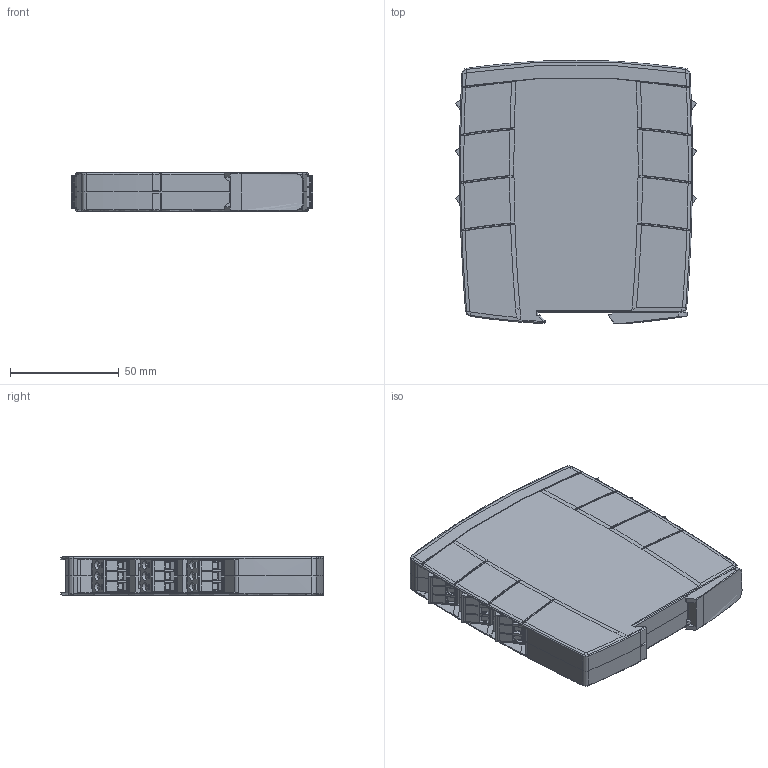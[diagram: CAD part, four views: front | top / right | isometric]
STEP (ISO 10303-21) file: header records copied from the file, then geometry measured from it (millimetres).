
FILE_DESCRIPTION(/* description */ (''),/* implementation_level */ '2;1');
FILE_NAME(/* name */ 'V:\AUTOCAD\_tegninger\Stepfiles - 3D\SafetyModules\SM-Modules\Assembly\TV\SM-6-TerminalsScrews.stp',/* time_stamp */ '2019-10-01T13:29:21+02:00',/* author */ ('tvb'),/* organization */ (''),/* preprocessor_version */ 'ST-DEVELOPER v18',/* originating_system */ 'Autodesk Inventor 2020',/* authorisation */ '');
FILE_SCHEMA (('AUTOMOTIVE_DESIGN { 1 0 10303 214 3 1 1 }'));
Products named in the file (1): SM-6_Substitute_2
Bounding box: 110.79 x 121.02 x 17.8 mm (x, y, z)
Volume: 207289.2 mm3; surface area: 61228.2 mm2
Topology: 1 solids, 24 shells, 2912 faces, 7943 edges, 5224 vertices
Faces by surface type: plane 2357, cylinder 378, bspline 169, cone 6, torus 2
Full cylindrical faces by diameter (mm): 0.744 x4, 0.804 x3, 3.783 x18, 4 x18
Entity records: 97749 total; most frequent: CARTESIAN_POINT 20823, ORIENTED_EDGE 15882, DIRECTION 14586, EDGE_CURVE 7941, LINE 6586, VECTOR 6586, VERTEX_POINT 5224, AXIS2_PLACEMENT_3D 4000
